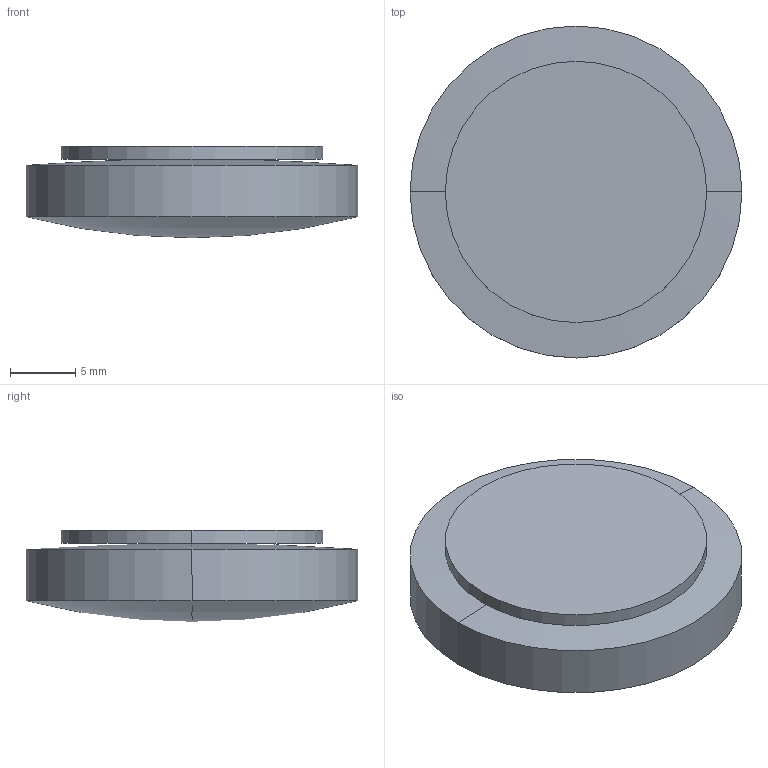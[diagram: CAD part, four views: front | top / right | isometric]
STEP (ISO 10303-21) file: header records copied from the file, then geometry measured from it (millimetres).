
FILE_DESCRIPTION(('STEP AP214'),'1');
FILE_NAME('LLF-25100.STEP','2020-03-09T17:41:23',(' '),(' '),'Spatial InterOp 3D',' ',' ');
FILE_SCHEMA(('AUTOMOTIVE_DESIGN { 1 0 10303 214 1 1 1 1 }'));
Length unit declared in the file: millimetre
Products named in the file (1): 1
Bounding box: 25.4 x 25.4 x 7 mm (x, y, z)
Volume: 2834.4 mm3; surface area: 2027.6 mm2
Topology: 2 solids, 2 shells, 10 faces, 20 edges, 10 vertices
Faces by surface type: sphere 4, cylinder 4, plane 2
Entity records: 255 total; most frequent: DIRECTION 52, CARTESIAN_POINT 38, ORIENTED_EDGE 32, AXIS2_PLACEMENT_3D 24, EDGE_CURVE 16, CIRCLE 12, ADVANCED_FACE 10, FACE_OUTER_BOUND 10
